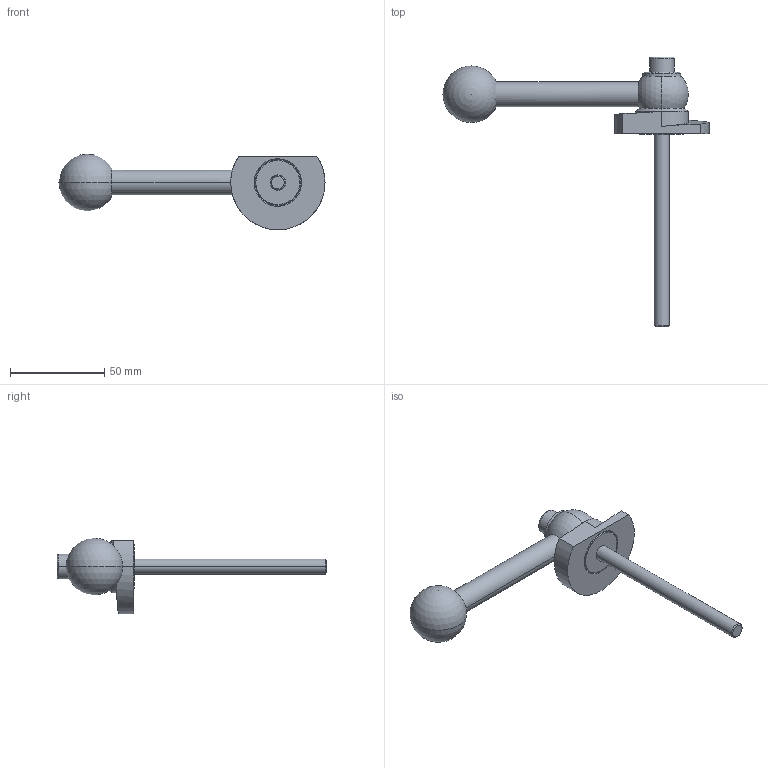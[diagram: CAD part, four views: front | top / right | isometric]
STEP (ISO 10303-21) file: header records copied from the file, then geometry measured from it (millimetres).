
FILE_DESCRIPTION (( 'STEP AP214' ), '1' );
FILE_NAME ('918.1-50-GVS-R-102.step', '2024-05-15T13:02:05', ( '' ), ( '' ), 'SwSTEP 2.0', 'SolidWorks 2022', '' );
FILE_SCHEMA (( 'AUTOMOTIVE_DESIGN' ));
Length unit declared in the file: millimetre
Products named in the file (1): 918.1-50-GVS-R-102
Bounding box: 141 x 143 x 40 mm (x, y, z)
Volume: 56101.3 mm3; surface area: 17907.4 mm2
Topology: 1 solids, 1 shells, 62 faces, 141 edges, 89 vertices
Faces by surface type: plane 20, cylinder 19, cone 14, sphere 4, bspline 3, torus 2
Entity records: 2011 total; most frequent: CARTESIAN_POINT 618, DIRECTION 305, ORIENTED_EDGE 262, EDGE_CURVE 131, AXIS2_PLACEMENT_3D 125, VERTEX_POINT 83, EDGE_LOOP 74, CIRCLE 65
